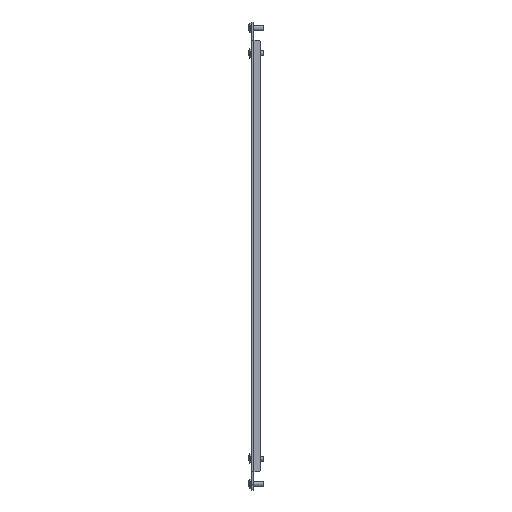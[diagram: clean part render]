
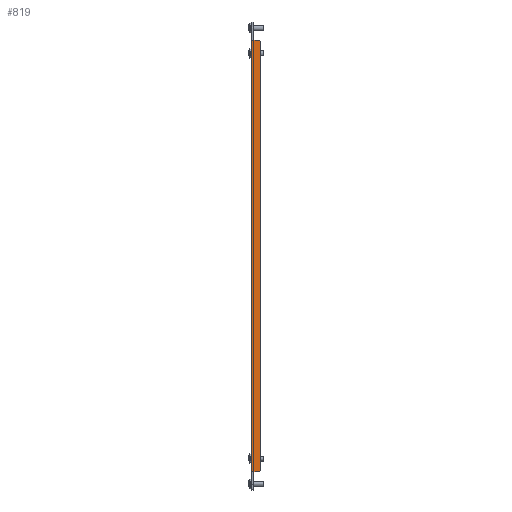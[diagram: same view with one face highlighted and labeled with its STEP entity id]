
A CAD part, left-side view. The second image highlights one B-rep face of the part: STEP entity #819.
In plain terms, the highlighted planar face has unit normal (-1, 0, 0) as drawn and (1, 0, 0) by its records, which use the part's own axes.
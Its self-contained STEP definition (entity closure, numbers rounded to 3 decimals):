
#7 = VERTEX_POINT ( 'NONE', #379 ) ;
#282 = VECTOR ( 'NONE', #2461, 1000. ) ;
#314 = CARTESIAN_POINT ( 'NONE',  ( 734., -212., -9. ) ) ;
#343 = ORIENTED_EDGE ( 'NONE', *, *, #2377, .T. ) ;
#346 = VERTEX_POINT ( 'NONE', #593 ) ;
#379 = CARTESIAN_POINT ( 'NONE',  ( 734., 213., 0. ) ) ;
#398 = LINE ( 'NONE', #2180, #1836 ) ;
#409 = EDGE_CURVE ( 'NONE', #863, #2579, #2616, .T. ) ;
#433 = CARTESIAN_POINT ( 'NONE',  ( 734., 213., -8. ) ) ;
#473 = DIRECTION ( 'NONE',  ( 0., 0., -1. ) ) ;
#532 = VECTOR ( 'NONE', #548, 1000. ) ;
#540 = VECTOR ( 'NONE', #771, 1000. ) ;
#548 = DIRECTION ( 'NONE',  ( 0., -1., 0. ) ) ;
#554 = CARTESIAN_POINT ( 'NONE',  ( 734., 213., -8. ) ) ;
#593 = CARTESIAN_POINT ( 'NONE',  ( 734., 213., -2.1 ) ) ;
#637 = CARTESIAN_POINT ( 'NONE',  ( 734., -213., -2.1 ) ) ;
#756 = LINE ( 'NONE', #2800, #540 ) ;
#771 = DIRECTION ( 'NONE',  ( 0., 0., 1. ) ) ;
#819 = ADVANCED_FACE ( 'NONE', ( #2638 ), #1362, .F. ) ;
#863 = VERTEX_POINT ( 'NONE', #1413 ) ;
#877 = LINE ( 'NONE', #3200, #282 ) ;
#955 = VECTOR ( 'NONE', #1340, 1000. ) ;
#988 = VECTOR ( 'NONE', #2673, 1000. ) ;
#997 = VERTEX_POINT ( 'NONE', #637 ) ;
#1007 = EDGE_CURVE ( 'NONE', #7, #1994, #2213, .T. ) ;
#1109 = DIRECTION ( 'NONE',  ( 0., 0., 1. ) ) ;
#1117 = ORIENTED_EDGE ( 'NONE', *, *, #1599, .F. ) ;
#1160 = CARTESIAN_POINT ( 'NONE',  ( 734., 212., -9. ) ) ;
#1312 = LINE ( 'NONE', #554, #2163 ) ;
#1328 = ORIENTED_EDGE ( 'NONE', *, *, #2592, .T. ) ;
#1340 = DIRECTION ( 'NONE',  ( 0., 0.707, -0.707 ) ) ;
#1362 = PLANE ( 'NONE',  #2238 ) ;
#1385 = ORIENTED_EDGE ( 'NONE', *, *, #1923, .T. ) ;
#1413 = CARTESIAN_POINT ( 'NONE',  ( 734., -213., -8. ) ) ;
#1580 = CARTESIAN_POINT ( 'NONE',  ( 734., 0., 0. ) ) ;
#1599 = EDGE_CURVE ( 'NONE', #997, #1994, #756, .T. ) ;
#1628 = ORIENTED_EDGE ( 'NONE', *, *, #409, .T. ) ;
#1642 = CARTESIAN_POINT ( 'NONE',  ( 734., 0., -9. ) ) ;
#1704 = CARTESIAN_POINT ( 'NONE',  ( 734., -213., 0. ) ) ;
#1714 = VECTOR ( 'NONE', #473, 1000. ) ;
#1721 = CARTESIAN_POINT ( 'NONE',  ( 734., 0., 0. ) ) ;
#1815 = ORIENTED_EDGE ( 'NONE', *, *, #2171, .T. ) ;
#1836 = VECTOR ( 'NONE', #2926, 1000. ) ;
#1863 = VERTEX_POINT ( 'NONE', #1160 ) ;
#1878 = EDGE_LOOP ( 'NONE', ( #1385, #1815, #1328, #343, #2759, #1117, #2302, #1628 ) ) ;
#1923 = EDGE_CURVE ( 'NONE', #2579, #1863, #2930, .T. ) ;
#1994 = VERTEX_POINT ( 'NONE', #2304 ) ;
#2163 = VECTOR ( 'NONE', #2909, 1000. ) ;
#2171 = EDGE_CURVE ( 'NONE', #1863, #3279, #1312, .T. ) ;
#2180 = CARTESIAN_POINT ( 'NONE',  ( 734., 213., -2.1 ) ) ;
#2213 = LINE ( 'NONE', #1721, #532 ) ;
#2238 = AXIS2_PLACEMENT_3D ( 'NONE', #1580, #2611, #1109 ) ;
#2302 = ORIENTED_EDGE ( 'NONE', *, *, #2482, .T. ) ;
#2304 = CARTESIAN_POINT ( 'NONE',  ( 734., -213., 0. ) ) ;
#2377 = EDGE_CURVE ( 'NONE', #346, #7, #398, .T. ) ;
#2461 = DIRECTION ( 'NONE',  ( 0., 0., 1. ) ) ;
#2482 = EDGE_CURVE ( 'NONE', #997, #863, #2773, .T. ) ;
#2579 = VERTEX_POINT ( 'NONE', #2714 ) ;
#2592 = EDGE_CURVE ( 'NONE', #3279, #346, #877, .T. ) ;
#2611 = DIRECTION ( 'NONE',  ( -1., 0., 0. ) ) ;
#2616 = LINE ( 'NONE', #314, #955 ) ;
#2638 = FACE_OUTER_BOUND ( 'NONE', #1878, .T. ) ;
#2673 = DIRECTION ( 'NONE',  ( 0., 1., 0. ) ) ;
#2714 = CARTESIAN_POINT ( 'NONE',  ( 734., -212., -9. ) ) ;
#2759 = ORIENTED_EDGE ( 'NONE', *, *, #1007, .T. ) ;
#2773 = LINE ( 'NONE', #1704, #1714 ) ;
#2800 = CARTESIAN_POINT ( 'NONE',  ( 734., -213., 0. ) ) ;
#2909 = DIRECTION ( 'NONE',  ( 0., 0.707, 0.707 ) ) ;
#2926 = DIRECTION ( 'NONE',  ( 0., 0., 1. ) ) ;
#2930 = LINE ( 'NONE', #1642, #988 ) ;
#3200 = CARTESIAN_POINT ( 'NONE',  ( 734., 213., 0. ) ) ;
#3279 = VERTEX_POINT ( 'NONE', #433 ) ;
